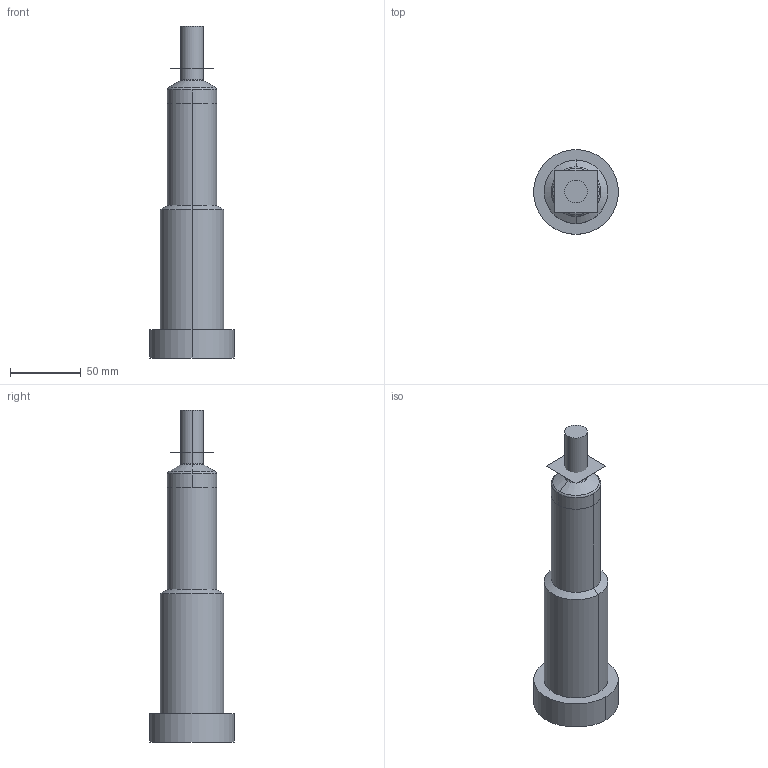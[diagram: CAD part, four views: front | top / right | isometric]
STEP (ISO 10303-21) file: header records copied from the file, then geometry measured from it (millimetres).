
FILE_DESCRIPTION (( 'STEP AP214' ), '1' );
FILE_NAME ('12EX16-03-205-##P.STEP', '2021-12-20T12:52:53', ( '' ), ( '' ), 'SwSTEP 2.0', 'SolidWorks 2018', '' );
FILE_SCHEMA (( 'AUTOMOTIVE_DESIGN' ));
Length unit declared in the file: millimetre
Products named in the file (5): 12EX16-03-205-##P; 12nt-tfp-##-###-01_pdasm_12NT-TFP-30-F30-01; nozzle_12EX16-03-205-##P; cutout_12EX16-03-205-##P; 12etip_cutout_12NT-##P-##-F30
Assembly tree (4 placements, depth 3):
  12EX16-03-205-##P
    12nt-tfp-##-###-01_pdasm_12NT-TFP-30-F30-01
      12etip_cutout_12NT-##P-##-F30
    nozzle_12EX16-03-205-##P
    cutout_12EX16-03-205-##P
Bounding box: 60 x 60 x 235 mm (x, y, z)
Volume: 307173.8 mm3; surface area: 101484.7 mm2
Topology: 2 solids, 6 shells, 388 faces, 1039 edges, 635 vertices
Faces by surface type: cylinder 149, plane 136, cone 48, torus 47, bspline 6, sphere 2
Entity records: 16457 total; most frequent: CARTESIAN_POINT 6332, DIRECTION 2221, ORIENTED_EDGE 2070, EDGE_CURVE 1037, AXIS2_PLACEMENT_3D 875, VERTEX_POINT 635, CIRCLE 484, VECTOR 471
